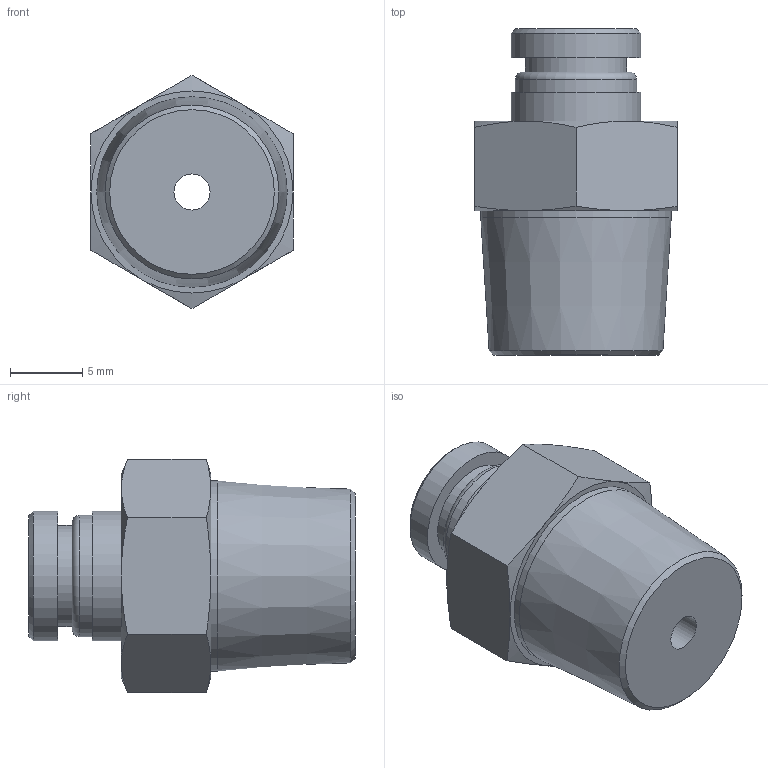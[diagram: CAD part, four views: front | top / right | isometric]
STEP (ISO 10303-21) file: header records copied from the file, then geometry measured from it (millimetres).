
FILE_DESCRIPTION(/* description */ (''),/* implementation_level */ '2;1');
FILE_NAME(/* name */ 'LXH11 0004 B2.stp',/* time_stamp */ '2026-04-19T14:24:48+02:00',/* author */ ('freju'),/* organization */ (''),/* preprocessor_version */ 'ST-DEVELOPER v20.1',/* originating_system */ 'Autodesk Inventor 2026',/* authorisation */ '');
FILE_SCHEMA (('AUTOMOTIVE_DESIGN { 1 0 10303 214 3 1 1 }'));
Length unit declared in the file: millimetre
Products named in the file (1): LXH11 0004 B2
Bounding box: 14 x 22.6 x 16.17 mm (x, y, z)
Volume: 2480.3 mm3; surface area: 1423.5 mm2
Topology: 1 solids, 1 shells, 37 faces, 74 edges, 45 vertices
Faces by surface type: cone 15, plane 14, cylinder 7, torus 1
Full cylindrical faces by diameter (mm): 2.5 x1, 4 x1, 7 x1, 8.4 x1, 9 x2, 13.189 x1
Entity records: 981 total; most frequent: CARTESIAN_POINT 205, DIRECTION 160, ORIENTED_EDGE 148, EDGE_CURVE 74, AXIS2_PLACEMENT_3D 72, EDGE_LOOP 45, VERTEX_POINT 45, FACE_OUTER_BOUND 37
